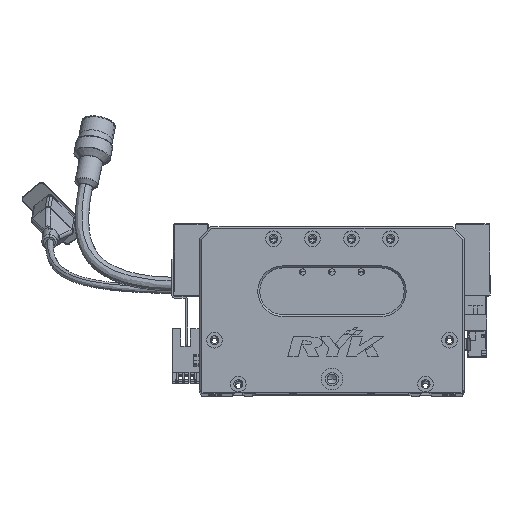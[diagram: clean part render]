
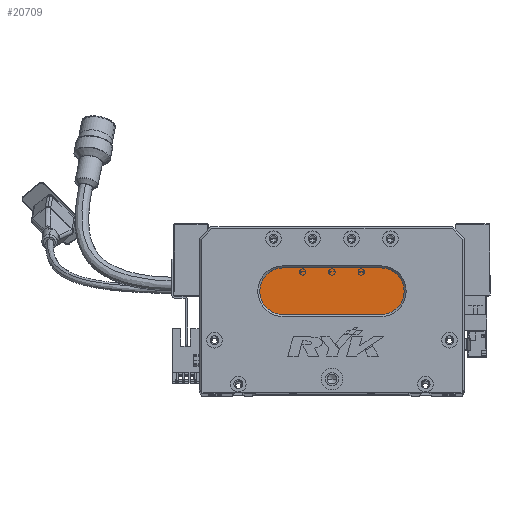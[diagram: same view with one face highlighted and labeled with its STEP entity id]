
A CAD part, top view. The second image highlights one B-rep face of the part: STEP entity #20709.
In plain terms, the highlighted planar face has unit normal (0, 0, 1) as drawn and (0, 0, -1) by its records, which use the part's own axes.
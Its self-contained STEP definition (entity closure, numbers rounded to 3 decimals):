
#2973 = CARTESIAN_POINT ( 'NONE',  ( 31., 52., 13. ) ) ;
#6287 = ORIENTED_EDGE ( 'NONE', *, *, #41836, .T. ) ;
#7501 = DIRECTION ( 'NONE',  ( -1., 0., 0. ) ) ;
#9290 = CIRCLE ( 'NONE', #65638, 12. ) ;
#10172 = ORIENTED_EDGE ( 'NONE', *, *, #65643, .T. ) ;
#12383 = VERTEX_POINT ( 'NONE', #66222 ) ;
#14269 = DIRECTION ( 'NONE',  ( 1., 0., 0. ) ) ;
#14286 = DIRECTION ( 'NONE',  ( 0., 0., -1. ) ) ;
#16283 = DIRECTION ( 'NONE',  ( 0., 0., -1. ) ) ;
#16531 = VECTOR ( 'NONE', #54141, 1000. ) ;
#20709 = ADVANCED_FACE ( 'NONE', ( #47500 ), #76305, .T. ) ;
#23826 = CARTESIAN_POINT ( 'NONE',  ( 93., 40., 13. ) ) ;
#24261 = CARTESIAN_POINT ( 'NONE',  ( 93., 40., 13. ) ) ;
#24738 = AXIS2_PLACEMENT_3D ( 'NONE', #68094, #68632, #7501 ) ;
#26037 = EDGE_LOOP ( 'NONE', ( #55451, #6287, #70437, #10172, #57445 ) ) ;
#28219 = CARTESIAN_POINT ( 'NONE',  ( 93., 52., 13. ) ) ;
#29713 = VECTOR ( 'NONE', #14269, 1000. ) ;
#41274 = CIRCLE ( 'NONE', #46759, 12. ) ;
#41836 = EDGE_CURVE ( 'NONE', #63070, #12383, #54446, .T. ) ;
#43468 = VERTEX_POINT ( 'NONE', #57821 ) ;
#43767 = CARTESIAN_POINT ( 'NONE',  ( 43., 64., 13. ) ) ;
#45824 = LINE ( 'NONE', #69787, #29713 ) ;
#46759 = AXIS2_PLACEMENT_3D ( 'NONE', #65213, #77590, #71289 ) ;
#47500 = FACE_OUTER_BOUND ( 'NONE', #26037, .T. ) ;
#47779 = DIRECTION ( 'NONE',  ( -1., 0., 0. ) ) ;
#51520 = VERTEX_POINT ( 'NONE', #43767 ) ;
#51541 = VERTEX_POINT ( 'NONE', #2973 ) ;
#54141 = DIRECTION ( 'NONE',  ( -1., 0., 0. ) ) ;
#54326 = CIRCLE ( 'NONE', #24738, 12. ) ;
#54446 = LINE ( 'NONE', #24261, #16531 ) ;
#55451 = ORIENTED_EDGE ( 'NONE', *, *, #59285, .T. ) ;
#57445 = ORIENTED_EDGE ( 'NONE', *, *, #74214, .T. ) ;
#57821 = CARTESIAN_POINT ( 'NONE',  ( 93., 64., 13. ) ) ;
#59285 = EDGE_CURVE ( 'NONE', #43468, #63070, #54326, .T. ) ;
#62463 = DIRECTION ( 'NONE',  ( -1., 0., 0. ) ) ;
#63070 = VERTEX_POINT ( 'NONE', #23826 ) ;
#65213 = CARTESIAN_POINT ( 'NONE',  ( 43., 52., 13. ) ) ;
#65638 = AXIS2_PLACEMENT_3D ( 'NONE', #68543, #14286, #62463 ) ;
#65643 = EDGE_CURVE ( 'NONE', #51541, #51520, #9290, .T. ) ;
#66222 = CARTESIAN_POINT ( 'NONE',  ( 43., 40., 13. ) ) ;
#68094 = CARTESIAN_POINT ( 'NONE',  ( 93., 52., 13. ) ) ;
#68543 = CARTESIAN_POINT ( 'NONE',  ( 43., 52., 13. ) ) ;
#68632 = DIRECTION ( 'NONE',  ( 0., 0., -1. ) ) ;
#69787 = CARTESIAN_POINT ( 'NONE',  ( 93., 64., 13. ) ) ;
#70437 = ORIENTED_EDGE ( 'NONE', *, *, #73045, .T. ) ;
#71289 = DIRECTION ( 'NONE',  ( -1., 0., 0. ) ) ;
#73045 = EDGE_CURVE ( 'NONE', #12383, #51541, #41274, .T. ) ;
#74214 = EDGE_CURVE ( 'NONE', #51520, #43468, #45824, .T. ) ;
#76305 = PLANE ( 'NONE',  #76332 ) ;
#76332 = AXIS2_PLACEMENT_3D ( 'NONE', #28219, #16283, #47779 ) ;
#77590 = DIRECTION ( 'NONE',  ( 0., 0., -1. ) ) ;
